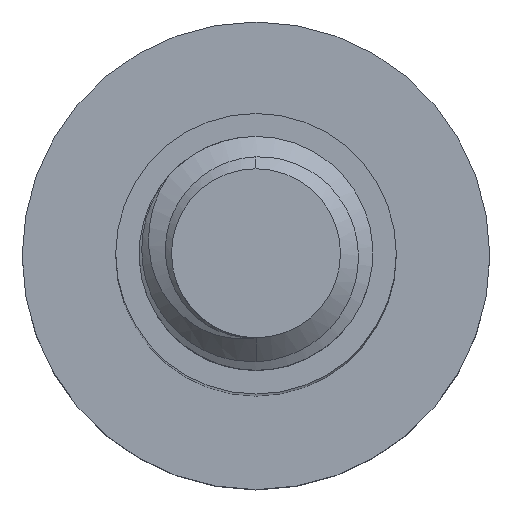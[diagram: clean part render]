
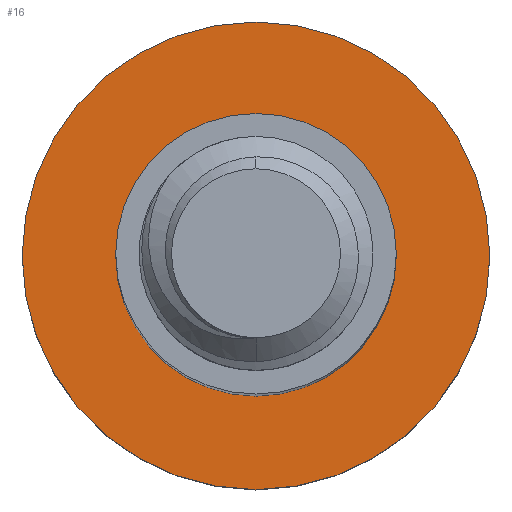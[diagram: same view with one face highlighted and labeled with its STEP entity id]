
A CAD part, top view. The second image highlights one B-rep face of the part: STEP entity #16.
In plain terms, the highlighted planar face has unit normal (0, 0, 1).
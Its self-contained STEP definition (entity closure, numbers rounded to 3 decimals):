
#16 = ADVANCED_FACE ( 'NONE', ( #572, #1147 ), #1900, .F. ) ;
#71 = EDGE_CURVE ( 'NONE', #1297, #1281, #1634, .T. ) ;
#122 = CARTESIAN_POINT ( 'NONE',  ( 0., 0., -25. ) ) ;
#134 = EDGE_CURVE ( 'NONE', #174, #1003, #387, .T. ) ;
#164 = AXIS2_PLACEMENT_3D ( 'NONE', #1121, #217, #598 ) ;
#174 = VERTEX_POINT ( 'NONE', #2110 ) ;
#217 = DIRECTION ( 'NONE',  ( 0., 0., -1. ) ) ;
#387 = CIRCLE ( 'NONE', #927, 3. ) ;
#491 = DIRECTION ( 'NONE',  ( -1., 0., 0. ) ) ;
#572 = FACE_BOUND ( 'NONE', #2170, .T. ) ;
#598 = DIRECTION ( 'NONE',  ( -1., 0., 0. ) ) ;
#623 = DIRECTION ( 'NONE',  ( 0., 0., -1. ) ) ;
#750 = ORIENTED_EDGE ( 'NONE', *, *, #71, .F. ) ;
#762 = ORIENTED_EDGE ( 'NONE', *, *, #1645, .T. ) ;
#839 = DIRECTION ( 'NONE',  ( 0., 0., -1. ) ) ;
#927 = AXIS2_PLACEMENT_3D ( 'NONE', #2291, #623, #2138 ) ;
#1003 = VERTEX_POINT ( 'NONE', #1091 ) ;
#1091 = CARTESIAN_POINT ( 'NONE',  ( 3., 0., -25. ) ) ;
#1121 = CARTESIAN_POINT ( 'NONE',  ( 0., 0., -25. ) ) ;
#1147 = FACE_OUTER_BOUND ( 'NONE', #1336, .T. ) ;
#1216 = DIRECTION ( 'NONE',  ( 0., 0., -1. ) ) ;
#1245 = CARTESIAN_POINT ( 'NONE',  ( 5., 0., -25. ) ) ;
#1247 = ORIENTED_EDGE ( 'NONE', *, *, #1686, .F. ) ;
#1281 = VERTEX_POINT ( 'NONE', #1578 ) ;
#1297 = VERTEX_POINT ( 'NONE', #1245 ) ;
#1336 = EDGE_LOOP ( 'NONE', ( #750, #1247 ) ) ;
#1409 = CIRCLE ( 'NONE', #2014, 3. ) ;
#1578 = CARTESIAN_POINT ( 'NONE',  ( -5., 0., -25. ) ) ;
#1595 = DIRECTION ( 'NONE',  ( 0., 0., -1. ) ) ;
#1597 = AXIS2_PLACEMENT_3D ( 'NONE', #2151, #1595, #491 ) ;
#1634 = CIRCLE ( 'NONE', #1597, 5. ) ;
#1645 = EDGE_CURVE ( 'NONE', #1003, #174, #1409, .T. ) ;
#1686 = EDGE_CURVE ( 'NONE', #1281, #1297, #1799, .T. ) ;
#1768 = DIRECTION ( 'NONE',  ( -1., 0., 0. ) ) ;
#1779 = CARTESIAN_POINT ( 'NONE',  ( 0., 0., -25. ) ) ;
#1799 = CIRCLE ( 'NONE', #1864, 5. ) ;
#1864 = AXIS2_PLACEMENT_3D ( 'NONE', #122, #839, #1768 ) ;
#1900 = PLANE ( 'NONE',  #164 ) ;
#1931 = ORIENTED_EDGE ( 'NONE', *, *, #134, .T. ) ;
#2014 = AXIS2_PLACEMENT_3D ( 'NONE', #1779, #1216, #2128 ) ;
#2110 = CARTESIAN_POINT ( 'NONE',  ( -3., 0., -25. ) ) ;
#2128 = DIRECTION ( 'NONE',  ( -1., 0., 0. ) ) ;
#2138 = DIRECTION ( 'NONE',  ( -1., 0., 0. ) ) ;
#2151 = CARTESIAN_POINT ( 'NONE',  ( 0., 0., -25. ) ) ;
#2170 = EDGE_LOOP ( 'NONE', ( #1931, #762 ) ) ;
#2291 = CARTESIAN_POINT ( 'NONE',  ( 0., 0., -25. ) ) ;
